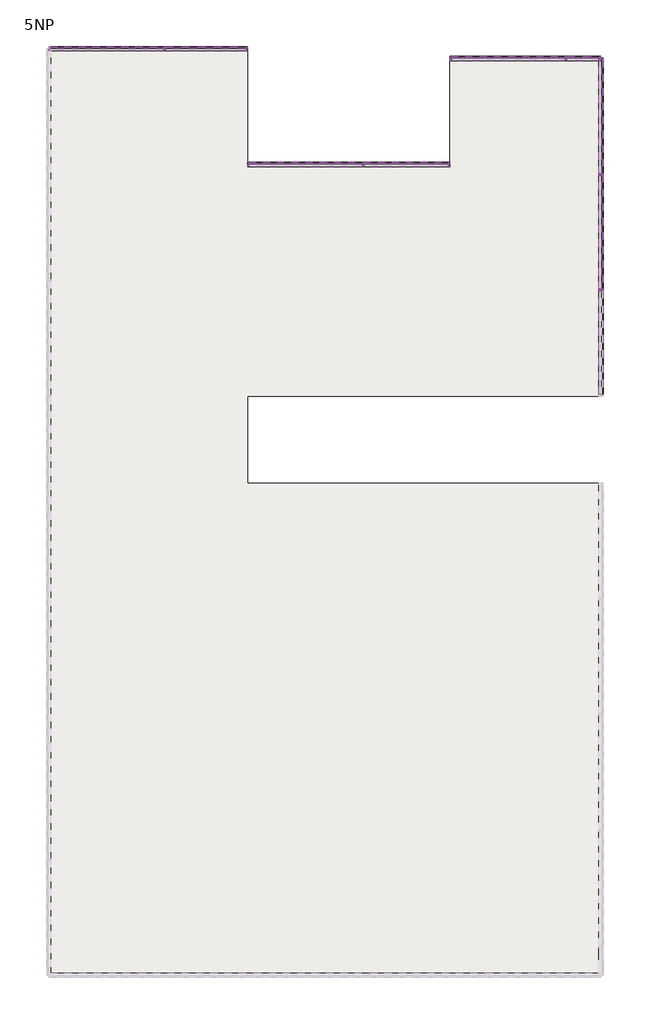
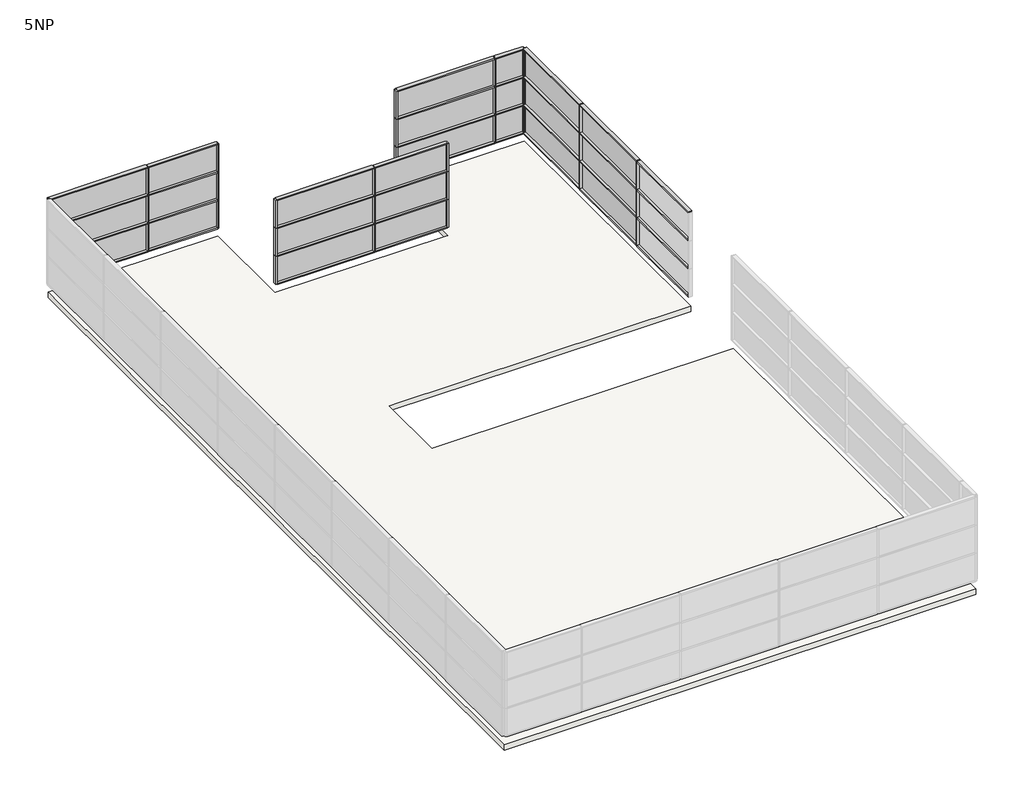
# One storey, part 3 of 3: 71 members, 24 plates, 1 slab.
"""IFC4 building model written with IfcOpenShell, lengths in millimetres."""

import ifcopenshell
import ifcopenshell.guid

model = None  # the IFC model being written
_history = None  # IfcOwnerHistory: only IFC2X3 demands one
_inside = {}  # id of a spatial element -> (the spatial element, [elements in it])
_under = {}  # id of a project, library or spatial element -> (it, [spatial elements below it])
_declared = {}  # id of a project -> (the project, [libraries it declares])
_typed = {}  # id of a type object -> (the type object, [elements of that type])
_made_of = {}  # id of a material, layer set ... -> (it, [elements and type objects made of it])


def new_model(schema):
    """Start an empty IFC model of exactly this schema.

    Asked for "IFC4X3", IfcOpenShell would pick the latest addendum, in which some entities
    have other attributes; the version numbers below select the first issue.
    IFC2X3 requires an IfcOwnerHistory on every rooted entity: one is made here for all.
    """
    global model, _history
    if schema == "IFC4X3":
        model = ifcopenshell.file(schema_version=(4, 3, 0, 0))
    else:
        model = ifcopenshell.file(schema=schema)
    _inside.clear()
    _under.clear()
    _declared.clear()
    _typed.clear()
    _made_of.clear()
    _history = None
    if model.schema == "IFC2X3":
        org = make("IfcOrganization", Name="unknown")
        user = make(
            "IfcPersonAndOrganization",
            ThePerson=make("IfcPerson", FamilyName="unknown"),
            TheOrganization=org,
        )
        app = make(
            "IfcApplication",
            ApplicationDeveloper=org,
            Version="unknown",
            ApplicationFullName="unknown",
            ApplicationIdentifier="unknown",
        )
        _history = make(
            "IfcOwnerHistory",
            OwningUser=user,
            OwningApplication=app,
            ChangeAction="ADDED",
            CreationDate=0,
        )
    return model


def make(cls, **values):
    """One entity of the class cls with the attributes given. An attribute that is None is left unset."""
    return model.create_entity(
        cls, **{name: value for name, value in values.items() if value is not None}
    )


def rooted(cls, **values):
    """An entity with a GlobalId (a new one), such as an element, a storey or a relation."""
    return make(cls, GlobalId=ifcopenshell.guid.new(), OwnerHistory=_history, **values)


def si_unit(unit_type, name, prefix=None):
    """IfcSIUnit, for example si_unit("LENGTHUNIT", "METRE", prefix="MILLI")."""
    return make("IfcSIUnit", UnitType=unit_type, Prefix=prefix, Name=name)


def assignment(units):
    """IfcUnitAssignment: the units of a project."""
    return None if units is None else make("IfcUnitAssignment", Units=units)


def point(xyz):
    """IfcCartesianPoint."""
    return None if xyz is None else make("IfcCartesianPoint", Coordinates=xyz)


def direction(xyz):
    """IfcDirection."""
    return None if xyz is None else make("IfcDirection", DirectionRatios=xyz)


def frame(location, z_axis=None, x_axis=None):
    """IfcAxis2Placement3D, a coordinate frame: its origin and axes. An axis left out is left unset."""
    return make(
        "IfcAxis2Placement3D",
        Location=point(location),
        Axis=direction(z_axis),
        RefDirection=direction(x_axis),
    )


def origin():
    """The frame at (0, 0, 0) with its axes left unset."""
    return frame((0.0, 0.0, 0.0))


def origin_with_axes():
    """The frame at (0, 0, 0) with the z axis (0, 0, 1) and the x axis (1, 0, 0) written out."""
    return frame((0.0, 0.0, 0.0), z_axis=(0.0, 0.0, 1.0), x_axis=(1.0, 0.0, 0.0))


def place(relative_to, where):
    """IfcLocalPlacement: puts the frame where relative to a parent placement (None: the world)."""
    return make(
        "IfcLocalPlacement", PlacementRelTo=relative_to, RelativePlacement=where
    )


def context(
    kind, dimensions, precision=None, world=None, true_north=None, identifier=None
):
    """IfcGeometricRepresentationContext, for example the 3D "Model" context."""
    return make(
        "IfcGeometricRepresentationContext",
        ContextIdentifier=identifier,
        ContextType=kind,
        CoordinateSpaceDimension=dimensions,
        Precision=precision,
        WorldCoordinateSystem=world,
        TrueNorth=true_north,
    )


def project(units=None, contexts=None):
    """IfcProject with its units and contexts."""
    return rooted(
        "IfcProject",
        Name="project",
        RepresentationContexts=contexts,
        UnitsInContext=assignment(units),
    )


def spatial(cls, under=None, at=None, **own):
    """A site, building, storey or space (cls), placed at a placement, below another one or the project."""
    s = rooted(cls, ObjectPlacement=at, **own)
    if under is not None:
        _under.setdefault(under.id(), (under, []))[1].append(s)
    return s


def polyline(points):
    """IfcPolyline through the points."""
    return make("IfcPolyline", Points=[point(p) for p in points])


def outline(outer, holes=None, kind="AREA"):
    """IfcArbitraryClosedProfileDef: a profile drawn as a closed curve; with holes, ...WithVoids."""
    if holes is None:
        return make("IfcArbitraryClosedProfileDef", ProfileType=kind, OuterCurve=outer)
    return make(
        "IfcArbitraryProfileDefWithVoids",
        ProfileType=kind,
        OuterCurve=outer,
        InnerCurves=holes,
    )


def extrude(swept, where, along, depth):
    """IfcExtrudedAreaSolid: the profile swept, set in the frame where, extruded along a direction by depth."""
    return make(
        "IfcExtrudedAreaSolid",
        SweptArea=swept,
        Position=where,
        ExtrudedDirection=direction(along),
        Depth=depth,
    )


def shape(context_of_items, identifier, shape_type, items):
    """IfcShapeRepresentation: the items that make up one representation, for example the "Body"."""
    return make(
        "IfcShapeRepresentation",
        ContextOfItems=context_of_items,
        RepresentationIdentifier=identifier,
        RepresentationType=shape_type,
        Items=items,
    )


def source(mapping_origin, context_of_items, identifier, shape_type, items):
    """IfcRepresentationMap: a shape defined once, which mapped items show again and again."""
    return make(
        "IfcRepresentationMap",
        MappingOrigin=mapping_origin,
        MappedRepresentation=shape(context_of_items, identifier, shape_type, items),
    )


def transform(
    local_origin,
    x_axis=None,
    y_axis=None,
    z_axis=None,
    scale=None,
    scale2=None,
    scale3=None,
    uniform=True,
):
    """IfcCartesianTransformationOperator3D, or its non-uniform kind. x_axis, y_axis, z_axis: its Axis1, 2, 3."""
    if uniform:
        return make(
            "IfcCartesianTransformationOperator3D",
            Axis1=direction(x_axis),
            Axis2=direction(y_axis),
            LocalOrigin=point(local_origin),
            Scale=scale,
            Axis3=direction(z_axis),
        )
    return make(
        "IfcCartesianTransformationOperator3DnonUniform",
        Axis1=direction(x_axis),
        Axis2=direction(y_axis),
        LocalOrigin=point(local_origin),
        Scale=scale,
        Axis3=direction(z_axis),
        Scale2=scale2,
        Scale3=scale3,
    )


def mapped(mapping_source, mapping_target):
    """IfcMappedItem: shows the shape of a source again, moved by a transform."""
    return make(
        "IfcMappedItem", MappingSource=mapping_source, MappingTarget=mapping_target
    )


def made_of(thing, what):
    """Note that an element or type object is made of a material, layer set ...; save() writes the relation."""
    if what is not None:
        _made_of.setdefault(what.id(), (what, []))[1].append(thing)
    return thing


def element(
    cls,
    number,
    at=None,
    inside=None,
    cuts=None,
    type_object=None,
    material=None,
    context=None,
    identifier="Body",
    shape_type=None,
    held_by="IfcProductDefinitionShape",
    body=None,
    shapes=None,
    **own,
):
    """One element of the class cls, such as IfcWall. Its Tag is "e" and its number.

    at: its placement. inside: the storey or other place that contains it. cuts: it is an
    opening in that element (IfcRelVoidsElement). A single representation is given by context,
    identifier, shape_type and body (its items); several are given by shapes. held_by: the class
    of the entity that holds the representations. save() writes the other relations.
    """
    e = rooted(cls, Tag="e%d" % number, ObjectPlacement=at, **own)
    if body is not None:
        shapes = [shape(context, identifier, shape_type, body)]
    if shapes is not None:
        e.Representation = make(held_by, Representations=shapes)
    if inside is not None:
        _inside.setdefault(inside.id(), (inside, []))[1].append(e)
    if cuts is not None:
        rooted(
            "IfcRelVoidsElement", RelatingBuildingElement=cuts, RelatedOpeningElement=e
        )
    if type_object is not None:
        _typed.setdefault(type_object.id(), (type_object, []))[1].append(e)
    return made_of(e, material)


def aggregate(whole, parts):
    """IfcRelAggregates: a whole, such as a stair, and the parts it consists of."""
    return rooted("IfcRelAggregates", RelatingObject=whole, RelatedObjects=parts)


def save(model, path):
    """Write the relations noted so far, then the file.

    IfcRelAggregates (storeys below a building ...), IfcRelContainedInSpatialStructure (elements
    in a storey), IfcRelDefinesByType, IfcRelAssociatesMaterial and IfcRelDeclares: one each for
    every whole, place, type object, material and project.
    """
    for whole, parts in _under.values():
        aggregate(whole, parts)
    for where, things in _inside.values():
        rooted(
            "IfcRelContainedInSpatialStructure",
            RelatedElements=things,
            RelatingStructure=where,
        )
    for kind, things in _typed.values():
        rooted("IfcRelDefinesByType", RelatedObjects=things, RelatingType=kind)
    for what, things in _made_of.values():
        rooted("IfcRelAssociatesMaterial", RelatedObjects=things, RelatingMaterial=what)
    for by, libraries in _declared.values():
        rooted("IfcRelDeclares", RelatingContext=by, RelatedDefinitions=libraries)
    model.write(path)


def rectangular_mullion_50_x_150mm_d99dc9be(model_context):
    return source(origin(), model_context, "Body", "SweptSolid", [
        extrude(outline(polyline([(25.0, 75.0), (25.0, -75.0), (-25.0, -75.0), (-25.0, 75.0), (25.0, 75.0)])), frame((0.0, 0.0, -1200.0), z_axis=(0.0, 0.0, 1.0), x_axis=(1.0, 0.0, 0.0)), (0.0, 0.0, 1.0), 1200.0),
    ])


def rectangular_mullion_50_x_150mm_6588f46c(model_context):
    return source(origin(), model_context, "Body", "SweptSolid", [
        extrude(outline(polyline([(0.0, 75.0), (0.0, -75.0), (-50.0, -75.0), (-50.0, 75.0), (0.0, 75.0)])), frame((0.0, 0.0, -1200.0), z_axis=(0.0, 0.0, 1.0), x_axis=(1.0, 0.0, 0.0)), (0.0, 0.0, 1.0), 1200.0),
    ])


def rectangular_mullion_50_x_150mm_3fe1b35e(model_context):
    return source(origin(), model_context, "Body", "SweptSolid", [
        extrude(outline(polyline([(25.0, 75.0), (25.0, -75.0), (-25.0, -75.0), (-25.0, 75.0), (25.0, 75.0)])), frame((0.0, 0.0, -3588.3715849), z_axis=(0.0, 0.0, 1.0), x_axis=(1.0, 0.0, 0.0)), (0.0, 0.0, 1.0), 3588.3715849),
    ])


def rectangular_mullion_50_x_150mm_a037c29c(model_context):
    return source(origin(), model_context, "Body", "SweptSolid", [
        extrude(outline(polyline([(25.0, 75.0), (25.0, -75.0), (-25.0, -75.0), (-25.0, 75.0), (25.0, 75.0)])), frame((0.0, 0.0, -3950.0), z_axis=(0.0, 0.0, 1.0), x_axis=(1.0, 0.0, 0.0)), (0.0, 0.0, 1.0), 3950.0),
    ])


def rectangular_mullion_50_x_150mm_c2546fd4(model_context):
    return source(origin(), model_context, "Body", "SweptSolid", [
        extrude(outline(polyline([(25.0, 75.0), (25.0, -75.0), (-25.0, -75.0), (-25.0, 75.0), (25.0, 75.0)])), frame((0.0, 0.0, -3925.0), z_axis=(0.0, 0.0, 1.0), x_axis=(1.0, 0.0, 0.0)), (0.0, 0.0, 1.0), 3925.0),
    ])


def rectangular_mullion_50_x_150mm_8b4cb4b7(model_context):
    return source(origin(), model_context, "Body", "SweptSolid", [
        extrude(outline(polyline([(25.0, 75.0), (25.0, -75.0), (-25.0, -75.0), (-25.0, 75.0), (25.0, 75.0)])), frame((0.0, 0.0, -2790.592625), z_axis=(0.0, 0.0, 1.0), x_axis=(1.0, 0.0, 0.0)), (0.0, 0.0, 1.0), 2790.592625),
    ])


def rectangular_mullion_50_x_150mm_185cfd49(model_context):
    return source(origin(), model_context, "Body", "SweptSolid", [
        extrude(outline(polyline([(25.0, 75.0), (25.0, -75.0), (-25.0, -75.0), (-25.0, 75.0), (25.0, 75.0)])), frame((0.0, 0.0, -2925.0), z_axis=(0.0, 0.0, 1.0), x_axis=(1.0, 0.0, 0.0)), (0.0, 0.0, 1.0), 2925.0),
    ])


def rectangular_mullion_50_x_150mm_2fe63767(model_context):
    return source(origin(), model_context, "Body", "SweptSolid", [
        extrude(outline(polyline([(25.0, 75.0), (25.0, -75.0), (-25.0, -75.0), (-25.0, 75.0), (25.0, 75.0)])), frame((0.0, 0.0, -1149.8468786), z_axis=(0.0, 0.0, 1.0), x_axis=(1.0, 0.0, 0.0)), (0.0, 0.0, 1.0), 1149.8468786),
    ])


def system_panel_glazed_8e9402eb(model_context):
    return source(origin(), model_context, "Body", "SweptSolid", [
        extrude(outline(polyline([(1962.5, 24.5), (-1962.5, 24.5), (-1962.5, 49.5), (1962.5, 49.5), (1962.5, 24.5)])), origin_with_axes(), (0.0, 0.0, 1.0), 1150.0),
    ])


def system_panel_glazed_89ac83a7(model_context):
    return source(origin(), model_context, "Body", "SweptSolid", [
        extrude(outline(polyline([(1975.0, 24.5), (-1975.0, 24.5), (-1975.0, 49.5), (1975.0, 49.5), (1975.0, 24.5)])), origin_with_axes(), (0.0, 0.0, 1.0), 1150.0),
    ])


def system_panel_glazed_e890f31e(model_context):
    return source(origin(), model_context, "Body", "SweptSolid", [
        extrude(outline(polyline([(1395.2963125, 24.5), (-1395.2963125, 24.5), (-1395.2963125, 49.5), (1395.2963125, 49.5), (1395.2963125, 24.5)])), origin_with_axes(), (0.0, 0.0, 1.0), 1150.0),
    ])


def system_panel_glazed_e3e91f99(model_context):
    return source(origin(), model_context, "Body", "SweptSolid", [
        extrude(outline(polyline([(1462.5, 24.5), (-1462.5, 24.5), (-1462.5, 49.5), (1462.5, 49.5), (1462.5, 24.5)])), origin_with_axes(), (0.0, 0.0, 1.0), 1150.0),
    ])


def system_panel_glazed_39d17f19(model_context):
    return source(origin(), model_context, "Body", "SweptSolid", [
        extrude(outline(polyline([(574.9234393, 24.5), (-574.9234393, 24.5), (-574.9234393, 49.5), (574.9234393, 49.5), (574.9234393, 24.5)])), origin_with_axes(), (0.0, 0.0, 1.0), 1150.0),
    ])


model = new_model("IFC4")

# Units and contexts
model_context = context("Model", 3, world=origin())
ifc_project = project(units=[si_unit("LENGTHUNIT", "METRE", prefix="MILLI")], contexts=[model_context])

# Site, building, storey
site = spatial("IfcSite", under=ifc_project)
building = spatial("IfcBuilding", under=site)
storey = spatial("IfcBuildingStorey", under=building, Name="5NP", Elevation=20000.0)

# Members
placement = place(None, origin())
rectangular_mullion_50_x_150mm_shape = rectangular_mullion_50_x_150mm_d99dc9be(model_context)
element("IfcMember", 1, ObjectType="Rectangular Mullion : 50 x 150mm", at=placement, inside=storey, context=model_context, shape_type="MappedRepresentation", body=[
    mapped(rectangular_mullion_50_x_150mm_shape, transform((13503.2660975, 39.3555415, 24000.0), x_axis=(0.0, -1.0, 0.0), y_axis=(1.0, 0.0, 0.0), z_axis=(0.0, 0.0, 1.0))),
])
element("IfcMember", 2, ObjectType="Rectangular Mullion : 50 x 150mm", at=placement, inside=storey, context=model_context, shape_type="MappedRepresentation", body=[
    mapped(rectangular_mullion_50_x_150mm_shape, transform((13503.2660975, 39.3555415, 22800.0), x_axis=(0.0, -1.0, 0.0), y_axis=(1.0, 0.0, 0.0), z_axis=(0.0, 0.0, 1.0))),
])
element("IfcMember", 3, ObjectType="Rectangular Mullion : 50 x 150mm", at=placement, inside=storey, context=model_context, shape_type="MappedRepresentation", body=[
    mapped(rectangular_mullion_50_x_150mm_shape, transform((13503.2660975, 39.3555415, 21600.0), x_axis=(0.0, -1.0, 0.0), y_axis=(1.0, 0.0, 0.0), z_axis=(0.0, 0.0, 1.0))),
])
element("IfcMember", 4, ObjectType="Rectangular Mullion : 50 x 150mm", at=placement, inside=storey, context=model_context, shape_type="MappedRepresentation", body=[
    mapped(rectangular_mullion_50_x_150mm_shape, transform((13503.2660975, 4039.3555415, 24000.0), x_axis=(0.0, -1.0, 0.0), y_axis=(1.0, 0.0, 0.0), z_axis=(0.0, 0.0, 1.0))),
])
element("IfcMember", 5, ObjectType="Rectangular Mullion : 50 x 150mm", at=placement, inside=storey, context=model_context, shape_type="MappedRepresentation", body=[
    mapped(rectangular_mullion_50_x_150mm_shape, transform((13503.2660975, 4039.3555415, 22800.0), x_axis=(0.0, -1.0, 0.0), y_axis=(1.0, 0.0, 0.0), z_axis=(0.0, 0.0, 1.0))),
])
element("IfcMember", 6, ObjectType="Rectangular Mullion : 50 x 150mm", at=placement, inside=storey, context=model_context, shape_type="MappedRepresentation", body=[
    mapped(rectangular_mullion_50_x_150mm_shape, transform((13503.2660975, 4039.3555415, 21600.0), x_axis=(0.0, -1.0, 0.0), y_axis=(1.0, 0.0, 0.0), z_axis=(0.0, 0.0, 1.0))),
])
element("IfcMember", 7, ObjectType="Rectangular Mullion : 50 x 150mm", at=placement, inside=storey, context=model_context, shape_type="MappedRepresentation", body=[
    mapped(rectangular_mullion_50_x_150mm_shape, transform((-1587.173406, 8375.9839566, 21600.0), x_axis=(1.0, 0.0, 0.0), y_axis=(0.0, 1.0, 0.0), z_axis=(0.0, 0.0, 1.0))),
])
element("IfcMember", 8, ObjectType="Rectangular Mullion : 50 x 150mm", at=placement, inside=storey, context=model_context, shape_type="MappedRepresentation", body=[
    mapped(rectangular_mullion_50_x_150mm_shape, transform((-1587.173406, 8375.9839566, 22800.0), x_axis=(1.0, 0.0, 0.0), y_axis=(0.0, 1.0, 0.0), z_axis=(0.0, 0.0, 1.0))),
])
element("IfcMember", 9, ObjectType="Rectangular Mullion : 50 x 150mm", at=placement, inside=storey, context=model_context, shape_type="MappedRepresentation", body=[
    mapped(rectangular_mullion_50_x_150mm_shape, transform((-1587.173406, 8375.9839566, 24000.0), x_axis=(1.0, 0.0, 0.0), y_axis=(0.0, 1.0, 0.0), z_axis=(0.0, 0.0, 1.0))),
])
element("IfcMember", 10, ObjectType="Rectangular Mullion : 50 x 150mm", at=placement, inside=storey, context=model_context, shape_type="MappedRepresentation", body=[
    mapped(rectangular_mullion_50_x_150mm_shape, transform((5278.419219, 4375.9839566, 21600.0), x_axis=(1.0, 0.0, 0.0), y_axis=(0.0, 1.0, 0.0), z_axis=(0.0, 0.0, 1.0))),
])
element("IfcMember", 11, ObjectType="Rectangular Mullion : 50 x 150mm", at=placement, inside=storey, context=model_context, shape_type="MappedRepresentation", body=[
    mapped(rectangular_mullion_50_x_150mm_shape, transform((5278.419219, 4375.9839566, 22800.0), x_axis=(1.0, 0.0, 0.0), y_axis=(0.0, 1.0, 0.0), z_axis=(0.0, 0.0, 1.0))),
])
element("IfcMember", 12, ObjectType="Rectangular Mullion : 50 x 150mm", at=placement, inside=storey, context=model_context, shape_type="MappedRepresentation", body=[
    mapped(rectangular_mullion_50_x_150mm_shape, transform((5278.419219, 4375.9839566, 24000.0), x_axis=(1.0, 0.0, 0.0), y_axis=(0.0, 1.0, 0.0), z_axis=(0.0, 0.0, 1.0))),
])
element("IfcMember", 13, ObjectType="Rectangular Mullion : 50 x 150mm", at=placement, inside=storey, context=model_context, shape_type="MappedRepresentation", body=[
    mapped(rectangular_mullion_50_x_150mm_shape, transform((12278.419219, 8039.3555415, 21600.0), x_axis=(1.0, 0.0, 0.0), y_axis=(0.0, 1.0, 0.0), z_axis=(0.0, 0.0, 1.0))),
])
element("IfcMember", 14, ObjectType="Rectangular Mullion : 50 x 150mm", at=placement, inside=storey, context=model_context, shape_type="MappedRepresentation", body=[
    mapped(rectangular_mullion_50_x_150mm_shape, transform((12278.419219, 8039.3555415, 22800.0), x_axis=(1.0, 0.0, 0.0), y_axis=(0.0, 1.0, 0.0), z_axis=(0.0, 0.0, 1.0))),
])
element("IfcMember", 15, ObjectType="Rectangular Mullion : 50 x 150mm", at=placement, inside=storey, context=model_context, shape_type="MappedRepresentation", body=[
    mapped(rectangular_mullion_50_x_150mm_shape, transform((12278.419219, 8039.3555415, 24000.0), x_axis=(1.0, 0.0, 0.0), y_axis=(0.0, 1.0, 0.0), z_axis=(0.0, 0.0, 1.0))),
])
rectangular_mullion_50_x_150mm_2_shape = rectangular_mullion_50_x_150mm_6588f46c(model_context)
element("IfcMember", 16, ObjectType="Rectangular Mullion : 50 x 150mm", at=placement, inside=storey, context=model_context, shape_type="MappedRepresentation", body=[
    mapped(rectangular_mullion_50_x_150mm_2_shape, transform((1278.419219, 8375.9839566, 21600.0), x_axis=(1.0, 0.0, 0.0), y_axis=(0.0, 1.0, 0.0), z_axis=(0.0, 0.0, 1.0))),
])
element("IfcMember", 17, ObjectType="Rectangular Mullion : 50 x 150mm", at=placement, inside=storey, context=model_context, shape_type="MappedRepresentation", body=[
    mapped(rectangular_mullion_50_x_150mm_2_shape, transform((1278.419219, 8375.9839566, 22800.0), x_axis=(1.0, 0.0, 0.0), y_axis=(0.0, 1.0, 0.0), z_axis=(0.0, 0.0, 1.0))),
])
element("IfcMember", 18, ObjectType="Rectangular Mullion : 50 x 150mm", at=placement, inside=storey, context=model_context, shape_type="MappedRepresentation", body=[
    mapped(rectangular_mullion_50_x_150mm_2_shape, transform((1278.419219, 8375.9839566, 24000.0), x_axis=(1.0, 0.0, 0.0), y_axis=(0.0, 1.0, 0.0), z_axis=(0.0, 0.0, 1.0))),
])
element("IfcMember", 19, ObjectType="Rectangular Mullion : 50 x 150mm", at=placement, inside=storey, context=model_context, shape_type="MappedRepresentation", body=[
    mapped(rectangular_mullion_50_x_150mm_2_shape, transform((8278.419219, 4375.9839566, 21600.0), x_axis=(1.0, 0.0, 0.0), y_axis=(0.0, 1.0, 0.0), z_axis=(0.0, 0.0, 1.0))),
])
element("IfcMember", 20, ObjectType="Rectangular Mullion : 50 x 150mm", at=placement, inside=storey, context=model_context, shape_type="MappedRepresentation", body=[
    mapped(rectangular_mullion_50_x_150mm_2_shape, transform((8278.419219, 4375.9839566, 22800.0), x_axis=(1.0, 0.0, 0.0), y_axis=(0.0, 1.0, 0.0), z_axis=(0.0, 0.0, 1.0))),
])
element("IfcMember", 21, ObjectType="Rectangular Mullion : 50 x 150mm", at=placement, inside=storey, context=model_context, shape_type="MappedRepresentation", body=[
    mapped(rectangular_mullion_50_x_150mm_2_shape, transform((8278.419219, 4375.9839566, 24000.0), x_axis=(1.0, 0.0, 0.0), y_axis=(0.0, 1.0, 0.0), z_axis=(0.0, 0.0, 1.0))),
])
element("IfcMember", 22, ObjectType="Rectangular Mullion : 50 x 150mm", at=placement, inside=storey, context=model_context, shape_type="MappedRepresentation", body=[
    mapped(rectangular_mullion_50_x_150mm_2_shape, transform((13503.2660975, 8039.3555415, 21600.0), x_axis=(1.0, 0.0, 0.0), y_axis=(0.0, 1.0, 0.0), z_axis=(0.0, 0.0, 1.0))),
])
element("IfcMember", 23, ObjectType="Rectangular Mullion : 50 x 150mm", at=placement, inside=storey, context=model_context, shape_type="MappedRepresentation", body=[
    mapped(rectangular_mullion_50_x_150mm_2_shape, transform((13503.2660975, 8039.3555415, 22800.0), x_axis=(1.0, 0.0, 0.0), y_axis=(0.0, 1.0, 0.0), z_axis=(0.0, 0.0, 1.0))),
])
element("IfcMember", 24, ObjectType="Rectangular Mullion : 50 x 150mm", at=placement, inside=storey, context=model_context, shape_type="MappedRepresentation", body=[
    mapped(rectangular_mullion_50_x_150mm_2_shape, transform((13503.2660975, 8039.3555415, 24000.0), x_axis=(1.0, 0.0, 0.0), y_axis=(0.0, 1.0, 0.0), z_axis=(0.0, 0.0, 1.0))),
])
rectangular_mullion_50_x_150mm_3_shape = rectangular_mullion_50_x_150mm_3fe1b35e(model_context)
element("IfcMember", 25, ObjectType="Rectangular Mullion : 50 x 150mm", at=placement, inside=storey, context=model_context, shape_type="MappedRepresentation", body=[
    mapped(rectangular_mullion_50_x_150mm_3_shape, transform((13503.2660975, 14.3555415, 24000.0), x_axis=(0.0, 0.0, 1.0), y_axis=(1.0, 0.0, 0.0), z_axis=(0.0, 1.0, 0.0))),
])
element("IfcMember", 26, ObjectType="Rectangular Mullion : 50 x 150mm", at=placement, inside=storey, context=model_context, shape_type="MappedRepresentation", body=[
    mapped(rectangular_mullion_50_x_150mm_3_shape, transform((13503.2660975, 14.3555415, 22800.0), x_axis=(0.0, 0.0, 1.0), y_axis=(1.0, 0.0, 0.0), z_axis=(0.0, 1.0, 0.0))),
])
element("IfcMember", 27, ObjectType="Rectangular Mullion : 50 x 150mm", at=placement, inside=storey, context=model_context, shape_type="MappedRepresentation", body=[
    mapped(rectangular_mullion_50_x_150mm_3_shape, transform((13503.2660975, 14.3555415, 21600.0), x_axis=(0.0, 0.0, 1.0), y_axis=(1.0, 0.0, 0.0), z_axis=(0.0, 1.0, 0.0))),
])
element("IfcMember", 28, ObjectType="Rectangular Mullion : 50 x 150mm", at=placement, inside=storey, context=model_context, shape_type="MappedRepresentation", body=[
    mapped(rectangular_mullion_50_x_150mm_3_shape, transform((13503.2660975, 14.3555415, 20400.0), x_axis=(0.0, 0.0, 1.0), y_axis=(1.0, 0.0, 0.0), z_axis=(0.0, 1.0, 0.0))),
])
rectangular_mullion_50_x_150mm_4_shape = rectangular_mullion_50_x_150mm_a037c29c(model_context)
element("IfcMember", 29, ObjectType="Rectangular Mullion : 50 x 150mm", at=placement, inside=storey, context=model_context, shape_type="MappedRepresentation", body=[
    mapped(rectangular_mullion_50_x_150mm_4_shape, transform((13503.2660975, 4014.3555415, 24000.0), x_axis=(0.0, 0.0, 1.0), y_axis=(1.0, 0.0, 0.0), z_axis=(0.0, 1.0, 0.0))),
])
element("IfcMember", 30, ObjectType="Rectangular Mullion : 50 x 150mm", at=placement, inside=storey, context=model_context, shape_type="MappedRepresentation", body=[
    mapped(rectangular_mullion_50_x_150mm_4_shape, transform((13503.2660975, 4014.3555415, 22800.0), x_axis=(0.0, 0.0, 1.0), y_axis=(1.0, 0.0, 0.0), z_axis=(0.0, 1.0, 0.0))),
])
element("IfcMember", 31, ObjectType="Rectangular Mullion : 50 x 150mm", at=placement, inside=storey, context=model_context, shape_type="MappedRepresentation", body=[
    mapped(rectangular_mullion_50_x_150mm_4_shape, transform((13503.2660975, 4014.3555415, 21600.0), x_axis=(0.0, 0.0, 1.0), y_axis=(1.0, 0.0, 0.0), z_axis=(0.0, 1.0, 0.0))),
])
element("IfcMember", 32, ObjectType="Rectangular Mullion : 50 x 150mm", at=placement, inside=storey, context=model_context, shape_type="MappedRepresentation", body=[
    mapped(rectangular_mullion_50_x_150mm_4_shape, transform((13503.2660975, 4014.3555415, 20400.0), x_axis=(0.0, 0.0, 1.0), y_axis=(1.0, 0.0, 0.0), z_axis=(0.0, 1.0, 0.0))),
])
rectangular_mullion_50_x_150mm_5_shape = rectangular_mullion_50_x_150mm_c2546fd4(model_context)
element("IfcMember", 33, ObjectType="Rectangular Mullion : 50 x 150mm", at=placement, inside=storey, context=model_context, shape_type="MappedRepresentation", body=[
    mapped(rectangular_mullion_50_x_150mm_5_shape, transform((13503.2660975, 7989.3555415, 24000.0), x_axis=(0.0, 0.0, 1.0), y_axis=(1.0, 0.0, 0.0), z_axis=(0.0, 1.0, 0.0))),
])
element("IfcMember", 34, ObjectType="Rectangular Mullion : 50 x 150mm", at=placement, inside=storey, context=model_context, shape_type="MappedRepresentation", body=[
    mapped(rectangular_mullion_50_x_150mm_5_shape, transform((13503.2660975, 7989.3555415, 22800.0), x_axis=(0.0, 0.0, 1.0), y_axis=(1.0, 0.0, 0.0), z_axis=(0.0, 1.0, 0.0))),
])
element("IfcMember", 35, ObjectType="Rectangular Mullion : 50 x 150mm", at=placement, inside=storey, context=model_context, shape_type="MappedRepresentation", body=[
    mapped(rectangular_mullion_50_x_150mm_5_shape, transform((13503.2660975, 7989.3555415, 21600.0), x_axis=(0.0, 0.0, 1.0), y_axis=(1.0, 0.0, 0.0), z_axis=(0.0, 1.0, 0.0))),
])
element("IfcMember", 36, ObjectType="Rectangular Mullion : 50 x 150mm", at=placement, inside=storey, context=model_context, shape_type="MappedRepresentation", body=[
    mapped(rectangular_mullion_50_x_150mm_5_shape, transform((13503.2660975, 7989.3555415, 20400.0), x_axis=(0.0, 0.0, 1.0), y_axis=(1.0, 0.0, 0.0), z_axis=(0.0, 1.0, 0.0))),
])
element("IfcMember", 37, ObjectType="Rectangular Mullion : 50 x 150mm", at=placement, inside=storey, context=model_context, shape_type="MappedRepresentation", body=[
    mapped(rectangular_mullion_50_x_150mm_5_shape, transform((-5537.173406, 8375.9839566, 20400.0), x_axis=(0.0, 0.0, 1.0), y_axis=(0.0, 1.0, 0.0), z_axis=(-1.0, 0.0, 0.0))),
])
element("IfcMember", 38, ObjectType="Rectangular Mullion : 50 x 150mm", at=placement, inside=storey, context=model_context, shape_type="MappedRepresentation", body=[
    mapped(rectangular_mullion_50_x_150mm_5_shape, transform((-5537.173406, 8375.9839566, 21600.0), x_axis=(0.0, 0.0, 1.0), y_axis=(0.0, 1.0, 0.0), z_axis=(-1.0, 0.0, 0.0))),
])
element("IfcMember", 39, ObjectType="Rectangular Mullion : 50 x 150mm", at=placement, inside=storey, context=model_context, shape_type="MappedRepresentation", body=[
    mapped(rectangular_mullion_50_x_150mm_5_shape, transform((-5537.173406, 8375.9839566, 22800.0), x_axis=(0.0, 0.0, 1.0), y_axis=(0.0, 1.0, 0.0), z_axis=(-1.0, 0.0, 0.0))),
])
element("IfcMember", 40, ObjectType="Rectangular Mullion : 50 x 150mm", at=placement, inside=storey, context=model_context, shape_type="MappedRepresentation", body=[
    mapped(rectangular_mullion_50_x_150mm_5_shape, transform((-5537.173406, 8375.9839566, 24000.0), x_axis=(0.0, 0.0, 1.0), y_axis=(0.0, 1.0, 0.0), z_axis=(-1.0, 0.0, 0.0))),
])
element("IfcMember", 41, ObjectType="Rectangular Mullion : 50 x 150mm", at=placement, inside=storey, context=model_context, shape_type="MappedRepresentation", body=[
    mapped(rectangular_mullion_50_x_150mm_5_shape, transform((1328.419219, 4375.9839566, 24000.0), x_axis=(0.0, 0.0, 1.0), y_axis=(0.0, 1.0, 0.0), z_axis=(-1.0, 0.0, 0.0))),
])
element("IfcMember", 42, ObjectType="Rectangular Mullion : 50 x 150mm", at=placement, inside=storey, context=model_context, shape_type="MappedRepresentation", body=[
    mapped(rectangular_mullion_50_x_150mm_5_shape, transform((1328.419219, 4375.9839566, 20400.0), x_axis=(0.0, 0.0, 1.0), y_axis=(0.0, 1.0, 0.0), z_axis=(-1.0, 0.0, 0.0))),
])
element("IfcMember", 43, ObjectType="Rectangular Mullion : 50 x 150mm", at=placement, inside=storey, context=model_context, shape_type="MappedRepresentation", body=[
    mapped(rectangular_mullion_50_x_150mm_5_shape, transform((1328.419219, 4375.9839566, 21600.0), x_axis=(0.0, 0.0, 1.0), y_axis=(0.0, 1.0, 0.0), z_axis=(-1.0, 0.0, 0.0))),
])
element("IfcMember", 44, ObjectType="Rectangular Mullion : 50 x 150mm", at=placement, inside=storey, context=model_context, shape_type="MappedRepresentation", body=[
    mapped(rectangular_mullion_50_x_150mm_5_shape, transform((1328.419219, 4375.9839566, 22800.0), x_axis=(0.0, 0.0, 1.0), y_axis=(0.0, 1.0, 0.0), z_axis=(-1.0, 0.0, 0.0))),
])
element("IfcMember", 45, ObjectType="Rectangular Mullion : 50 x 150mm", at=placement, inside=storey, context=model_context, shape_type="MappedRepresentation", body=[
    mapped(rectangular_mullion_50_x_150mm_5_shape, transform((8328.419219, 8039.3555415, 24000.0), x_axis=(0.0, 0.0, 1.0), y_axis=(0.0, 1.0, 0.0), z_axis=(-1.0, 0.0, 0.0))),
])
element("IfcMember", 46, ObjectType="Rectangular Mullion : 50 x 150mm", at=placement, inside=storey, context=model_context, shape_type="MappedRepresentation", body=[
    mapped(rectangular_mullion_50_x_150mm_5_shape, transform((8328.419219, 8039.3555415, 20400.0), x_axis=(0.0, 0.0, 1.0), y_axis=(0.0, 1.0, 0.0), z_axis=(-1.0, 0.0, 0.0))),
])
element("IfcMember", 47, ObjectType="Rectangular Mullion : 50 x 150mm", at=placement, inside=storey, context=model_context, shape_type="MappedRepresentation", body=[
    mapped(rectangular_mullion_50_x_150mm_5_shape, transform((8328.419219, 8039.3555415, 21600.0), x_axis=(0.0, 0.0, 1.0), y_axis=(0.0, 1.0, 0.0), z_axis=(-1.0, 0.0, 0.0))),
])
element("IfcMember", 48, ObjectType="Rectangular Mullion : 50 x 150mm", at=placement, inside=storey, context=model_context, shape_type="MappedRepresentation", body=[
    mapped(rectangular_mullion_50_x_150mm_5_shape, transform((8328.419219, 8039.3555415, 22800.0), x_axis=(0.0, 0.0, 1.0), y_axis=(0.0, 1.0, 0.0), z_axis=(-1.0, 0.0, 0.0))),
])
element("IfcMember", 49, ObjectType="Rectangular Mullion : 50 x 150mm", at=placement, inside=storey, context=model_context, shape_type="MappedRepresentation", body=[
    mapped(rectangular_mullion_50_x_150mm_2_shape, transform((13503.2660975, 8039.3555415, 22800.0), x_axis=(0.0, 1.0, 0.0), y_axis=(1.0, 0.0, 0.0), z_axis=(0.0, 0.0, -1.0))),
])
element("IfcMember", 50, ObjectType="Rectangular Mullion : 50 x 150mm", at=placement, inside=storey, context=model_context, shape_type="MappedRepresentation", body=[
    mapped(rectangular_mullion_50_x_150mm_2_shape, transform((13503.2660975, 8039.3555415, 21600.0), x_axis=(0.0, 1.0, 0.0), y_axis=(1.0, 0.0, 0.0), z_axis=(0.0, 0.0, -1.0))),
])
element("IfcMember", 51, ObjectType="Rectangular Mullion : 50 x 150mm", at=placement, inside=storey, context=model_context, shape_type="MappedRepresentation", body=[
    mapped(rectangular_mullion_50_x_150mm_2_shape, transform((13503.2660975, 8039.3555415, 20400.0), x_axis=(0.0, 1.0, 0.0), y_axis=(1.0, 0.0, 0.0), z_axis=(0.0, 0.0, -1.0))),
])
element("IfcMember", 52, ObjectType="Rectangular Mullion : 50 x 150mm", at=placement, inside=storey, context=model_context, shape_type="MappedRepresentation", body=[
    mapped(rectangular_mullion_50_x_150mm_2_shape, transform((-5587.173406, 8375.9839566, 21600.0), x_axis=(-1.0, 0.0, 0.0), y_axis=(0.0, 1.0, 0.0), z_axis=(0.0, 0.0, -1.0))),
])
element("IfcMember", 53, ObjectType="Rectangular Mullion : 50 x 150mm", at=placement, inside=storey, context=model_context, shape_type="MappedRepresentation", body=[
    mapped(rectangular_mullion_50_x_150mm_2_shape, transform((-5587.173406, 8375.9839566, 22800.0), x_axis=(-1.0, 0.0, 0.0), y_axis=(0.0, 1.0, 0.0), z_axis=(0.0, 0.0, -1.0))),
])
element("IfcMember", 54, ObjectType="Rectangular Mullion : 50 x 150mm", at=placement, inside=storey, context=model_context, shape_type="MappedRepresentation", body=[
    mapped(rectangular_mullion_50_x_150mm_2_shape, transform((1278.419219, 4375.9839566, 20400.0), x_axis=(-1.0, 0.0, 0.0), y_axis=(0.0, 1.0, 0.0), z_axis=(0.0, 0.0, -1.0))),
])
element("IfcMember", 55, ObjectType="Rectangular Mullion : 50 x 150mm", at=placement, inside=storey, context=model_context, shape_type="MappedRepresentation", body=[
    mapped(rectangular_mullion_50_x_150mm_2_shape, transform((1278.419219, 4375.9839566, 21600.0), x_axis=(-1.0, 0.0, 0.0), y_axis=(0.0, 1.0, 0.0), z_axis=(0.0, 0.0, -1.0))),
])
element("IfcMember", 56, ObjectType="Rectangular Mullion : 50 x 150mm", at=placement, inside=storey, context=model_context, shape_type="MappedRepresentation", body=[
    mapped(rectangular_mullion_50_x_150mm_2_shape, transform((1278.419219, 4375.9839566, 22800.0), x_axis=(-1.0, 0.0, 0.0), y_axis=(0.0, 1.0, 0.0), z_axis=(0.0, 0.0, -1.0))),
])
element("IfcMember", 57, ObjectType="Rectangular Mullion : 50 x 150mm", at=placement, inside=storey, context=model_context, shape_type="MappedRepresentation", body=[
    mapped(rectangular_mullion_50_x_150mm_2_shape, transform((8278.419219, 8039.3555415, 20400.0), x_axis=(-1.0, 0.0, 0.0), y_axis=(0.0, 1.0, 0.0), z_axis=(0.0, 0.0, -1.0))),
])
element("IfcMember", 58, ObjectType="Rectangular Mullion : 50 x 150mm", at=placement, inside=storey, context=model_context, shape_type="MappedRepresentation", body=[
    mapped(rectangular_mullion_50_x_150mm_2_shape, transform((8278.419219, 8039.3555415, 21600.0), x_axis=(-1.0, 0.0, 0.0), y_axis=(0.0, 1.0, 0.0), z_axis=(0.0, 0.0, -1.0))),
])
element("IfcMember", 59, ObjectType="Rectangular Mullion : 50 x 150mm", at=placement, inside=storey, context=model_context, shape_type="MappedRepresentation", body=[
    mapped(rectangular_mullion_50_x_150mm_2_shape, transform((8278.419219, 8039.3555415, 22800.0), x_axis=(-1.0, 0.0, 0.0), y_axis=(0.0, 1.0, 0.0), z_axis=(0.0, 0.0, -1.0))),
])
rectangular_mullion_50_x_150mm_6_shape = rectangular_mullion_50_x_150mm_8b4cb4b7(model_context)
element("IfcMember", 60, ObjectType="Rectangular Mullion : 50 x 150mm", at=placement, inside=storey, context=model_context, shape_type="MappedRepresentation", body=[
    mapped(rectangular_mullion_50_x_150mm_6_shape, transform((-1562.173406, 8375.9839566, 20400.0), x_axis=(0.0, 0.0, 1.0), y_axis=(0.0, 1.0, 0.0), z_axis=(-1.0, 0.0, 0.0))),
])
element("IfcMember", 61, ObjectType="Rectangular Mullion : 50 x 150mm", at=placement, inside=storey, context=model_context, shape_type="MappedRepresentation", body=[
    mapped(rectangular_mullion_50_x_150mm_6_shape, transform((-1562.173406, 8375.9839566, 21600.0), x_axis=(0.0, 0.0, 1.0), y_axis=(0.0, 1.0, 0.0), z_axis=(-1.0, 0.0, 0.0))),
])
element("IfcMember", 62, ObjectType="Rectangular Mullion : 50 x 150mm", at=placement, inside=storey, context=model_context, shape_type="MappedRepresentation", body=[
    mapped(rectangular_mullion_50_x_150mm_6_shape, transform((-1562.173406, 8375.9839566, 22800.0), x_axis=(0.0, 0.0, 1.0), y_axis=(0.0, 1.0, 0.0), z_axis=(-1.0, 0.0, 0.0))),
])
element("IfcMember", 63, ObjectType="Rectangular Mullion : 50 x 150mm", at=placement, inside=storey, context=model_context, shape_type="MappedRepresentation", body=[
    mapped(rectangular_mullion_50_x_150mm_6_shape, transform((-1562.173406, 8375.9839566, 24000.0), x_axis=(0.0, 0.0, 1.0), y_axis=(0.0, 1.0, 0.0), z_axis=(-1.0, 0.0, 0.0))),
])
rectangular_mullion_50_x_150mm_7_shape = rectangular_mullion_50_x_150mm_185cfd49(model_context)
element("IfcMember", 64, ObjectType="Rectangular Mullion : 50 x 150mm", at=placement, inside=storey, context=model_context, shape_type="MappedRepresentation", body=[
    mapped(rectangular_mullion_50_x_150mm_7_shape, transform((5303.419219, 4375.9839566, 22800.0), x_axis=(0.0, 0.0, 1.0), y_axis=(0.0, 1.0, 0.0), z_axis=(-1.0, 0.0, 0.0))),
])
element("IfcMember", 65, ObjectType="Rectangular Mullion : 50 x 150mm", at=placement, inside=storey, context=model_context, shape_type="MappedRepresentation", body=[
    mapped(rectangular_mullion_50_x_150mm_7_shape, transform((5303.419219, 4375.9839566, 24000.0), x_axis=(0.0, 0.0, 1.0), y_axis=(0.0, 1.0, 0.0), z_axis=(-1.0, 0.0, 0.0))),
])
element("IfcMember", 66, ObjectType="Rectangular Mullion : 50 x 150mm", at=placement, inside=storey, context=model_context, shape_type="MappedRepresentation", body=[
    mapped(rectangular_mullion_50_x_150mm_7_shape, transform((5303.419219, 4375.9839566, 20400.0), x_axis=(0.0, 0.0, 1.0), y_axis=(0.0, 1.0, 0.0), z_axis=(-1.0, 0.0, 0.0))),
])
element("IfcMember", 67, ObjectType="Rectangular Mullion : 50 x 150mm", at=placement, inside=storey, context=model_context, shape_type="MappedRepresentation", body=[
    mapped(rectangular_mullion_50_x_150mm_7_shape, transform((5303.419219, 4375.9839566, 21600.0), x_axis=(0.0, 0.0, 1.0), y_axis=(0.0, 1.0, 0.0), z_axis=(-1.0, 0.0, 0.0))),
])
rectangular_mullion_50_x_150mm_8_shape = rectangular_mullion_50_x_150mm_2fe63767(model_context)
element("IfcMember", 68, ObjectType="Rectangular Mullion : 50 x 150mm", at=placement, inside=storey, context=model_context, shape_type="MappedRepresentation", body=[
    mapped(rectangular_mullion_50_x_150mm_8_shape, transform((12303.419219, 8039.3555415, 22800.0), x_axis=(0.0, 0.0, 1.0), y_axis=(0.0, 1.0, 0.0), z_axis=(-1.0, 0.0, 0.0))),
])
element("IfcMember", 69, ObjectType="Rectangular Mullion : 50 x 150mm", at=placement, inside=storey, context=model_context, shape_type="MappedRepresentation", body=[
    mapped(rectangular_mullion_50_x_150mm_8_shape, transform((12303.419219, 8039.3555415, 24000.0), x_axis=(0.0, 0.0, 1.0), y_axis=(0.0, 1.0, 0.0), z_axis=(-1.0, 0.0, 0.0))),
])
element("IfcMember", 70, ObjectType="Rectangular Mullion : 50 x 150mm", at=placement, inside=storey, context=model_context, shape_type="MappedRepresentation", body=[
    mapped(rectangular_mullion_50_x_150mm_8_shape, transform((12303.419219, 8039.3555415, 20400.0), x_axis=(0.0, 0.0, 1.0), y_axis=(0.0, 1.0, 0.0), z_axis=(-1.0, 0.0, 0.0))),
])
element("IfcMember", 71, ObjectType="Rectangular Mullion : 50 x 150mm", at=placement, inside=storey, context=model_context, shape_type="MappedRepresentation", body=[
    mapped(rectangular_mullion_50_x_150mm_8_shape, transform((12303.419219, 8039.3555415, 21600.0), x_axis=(0.0, 0.0, 1.0), y_axis=(0.0, 1.0, 0.0), z_axis=(-1.0, 0.0, 0.0))),
])

# Plates
system_panel_glazed_shape = system_panel_glazed_8e9402eb(model_context)
element("IfcPlate", 72, ObjectType="System Panel : Glazed", at=placement, inside=storey, context=model_context, shape_type="MappedRepresentation", body=[
    mapped(system_panel_glazed_shape, transform((13503.2660975, 6026.8555415, 20425.0), x_axis=(0.0, -1.0, 0.0), y_axis=(1.0, 0.0, 0.0), z_axis=(0.0, 0.0, 1.0))),
])
element("IfcPlate", 73, ObjectType="System Panel : Glazed", at=placement, inside=storey, context=model_context, shape_type="MappedRepresentation", body=[
    mapped(system_panel_glazed_shape, transform((13503.2660975, 6026.8555415, 21625.0), x_axis=(0.0, -1.0, 0.0), y_axis=(1.0, 0.0, 0.0), z_axis=(0.0, 0.0, 1.0))),
])
element("IfcPlate", 74, ObjectType="System Panel : Glazed", at=placement, inside=storey, context=model_context, shape_type="MappedRepresentation", body=[
    mapped(system_panel_glazed_shape, transform((10290.919219, 8039.3555415, 20425.0), x_axis=(1.0, 0.0, 0.0), y_axis=(0.0, 1.0, 0.0), z_axis=(0.0, 0.0, 1.0))),
])
element("IfcPlate", 75, ObjectType="System Panel : Glazed", at=placement, inside=storey, context=model_context, shape_type="MappedRepresentation", body=[
    mapped(system_panel_glazed_shape, transform((10290.919219, 8039.3555415, 21625.0), x_axis=(1.0, 0.0, 0.0), y_axis=(0.0, 1.0, 0.0), z_axis=(0.0, 0.0, 1.0))),
])
element("IfcPlate", 76, ObjectType="System Panel : Glazed", at=placement, inside=storey, context=model_context, shape_type="MappedRepresentation", body=[
    mapped(system_panel_glazed_shape, transform((3290.919219, 4375.9839566, 20425.0), x_axis=(1.0, 0.0, 0.0), y_axis=(0.0, 1.0, 0.0), z_axis=(0.0, 0.0, 1.0))),
])
element("IfcPlate", 77, ObjectType="System Panel : Glazed", at=placement, inside=storey, context=model_context, shape_type="MappedRepresentation", body=[
    mapped(system_panel_glazed_shape, transform((3290.919219, 4375.9839566, 21625.0), x_axis=(1.0, 0.0, 0.0), y_axis=(0.0, 1.0, 0.0), z_axis=(0.0, 0.0, 1.0))),
])
element("IfcPlate", 78, ObjectType="System Panel : Glazed", at=placement, inside=storey, context=model_context, shape_type="MappedRepresentation", body=[
    mapped(system_panel_glazed_shape, transform((-3574.673406, 8375.9839566, 20425.0), x_axis=(1.0, 0.0, 0.0), y_axis=(0.0, 1.0, 0.0), z_axis=(0.0, 0.0, 1.0))),
])
element("IfcPlate", 79, ObjectType="System Panel : Glazed", at=placement, inside=storey, context=model_context, shape_type="MappedRepresentation", body=[
    mapped(system_panel_glazed_shape, transform((-3574.673406, 8375.9839566, 21625.0), x_axis=(1.0, 0.0, 0.0), y_axis=(0.0, 1.0, 0.0), z_axis=(0.0, 0.0, 1.0))),
])
element("IfcPlate", 80, ObjectType="System Panel : Glazed", at=placement, inside=storey, context=model_context, shape_type="MappedRepresentation", body=[
    mapped(system_panel_glazed_shape, transform((13503.2660975, 6026.8555415, 22825.0), x_axis=(0.0, -1.0, 0.0), y_axis=(1.0, 0.0, 0.0), z_axis=(0.0, 0.0, 1.0))),
])
element("IfcPlate", 81, ObjectType="System Panel : Glazed", at=placement, inside=storey, context=model_context, shape_type="MappedRepresentation", body=[
    mapped(system_panel_glazed_shape, transform((10290.919219, 8039.3555415, 22825.0), x_axis=(1.0, 0.0, 0.0), y_axis=(0.0, 1.0, 0.0), z_axis=(0.0, 0.0, 1.0))),
])
element("IfcPlate", 82, ObjectType="System Panel : Glazed", at=placement, inside=storey, context=model_context, shape_type="MappedRepresentation", body=[
    mapped(system_panel_glazed_shape, transform((3290.919219, 4375.9839566, 22825.0), x_axis=(1.0, 0.0, 0.0), y_axis=(0.0, 1.0, 0.0), z_axis=(0.0, 0.0, 1.0))),
])
element("IfcPlate", 83, ObjectType="System Panel : Glazed", at=placement, inside=storey, context=model_context, shape_type="MappedRepresentation", body=[
    mapped(system_panel_glazed_shape, transform((-3574.673406, 8375.9839566, 22825.0), x_axis=(1.0, 0.0, 0.0), y_axis=(0.0, 1.0, 0.0), z_axis=(0.0, 0.0, 1.0))),
])
system_panel_glazed_2_shape = system_panel_glazed_89ac83a7(model_context)
element("IfcPlate", 84, ObjectType="System Panel : Glazed", at=placement, inside=storey, context=model_context, shape_type="MappedRepresentation", body=[
    mapped(system_panel_glazed_2_shape, transform((13503.2660975, 2039.3555415, 20425.0), x_axis=(0.0, -1.0, 0.0), y_axis=(1.0, 0.0, 0.0), z_axis=(0.0, 0.0, 1.0))),
])
element("IfcPlate", 85, ObjectType="System Panel : Glazed", at=placement, inside=storey, context=model_context, shape_type="MappedRepresentation", body=[
    mapped(system_panel_glazed_2_shape, transform((13503.2660975, 2039.3555415, 21625.0), x_axis=(0.0, -1.0, 0.0), y_axis=(1.0, 0.0, 0.0), z_axis=(0.0, 0.0, 1.0))),
])
element("IfcPlate", 86, ObjectType="System Panel : Glazed", at=placement, inside=storey, context=model_context, shape_type="MappedRepresentation", body=[
    mapped(system_panel_glazed_2_shape, transform((13503.2660975, 2039.3555415, 22825.0), x_axis=(0.0, -1.0, 0.0), y_axis=(1.0, 0.0, 0.0), z_axis=(0.0, 0.0, 1.0))),
])
system_panel_glazed_3_shape = system_panel_glazed_e890f31e(model_context)
element("IfcPlate", 87, ObjectType="System Panel : Glazed", at=placement, inside=storey, context=model_context, shape_type="MappedRepresentation", body=[
    mapped(system_panel_glazed_3_shape, transform((-166.8770935, 8375.9839566, 20425.0), x_axis=(1.0, 0.0, 0.0), y_axis=(0.0, 1.0, 0.0), z_axis=(0.0, 0.0, 1.0))),
])
element("IfcPlate", 88, ObjectType="System Panel : Glazed", at=placement, inside=storey, context=model_context, shape_type="MappedRepresentation", body=[
    mapped(system_panel_glazed_3_shape, transform((-166.8770935, 8375.9839566, 21625.0), x_axis=(1.0, 0.0, 0.0), y_axis=(0.0, 1.0, 0.0), z_axis=(0.0, 0.0, 1.0))),
])
element("IfcPlate", 89, ObjectType="System Panel : Glazed", at=placement, inside=storey, context=model_context, shape_type="MappedRepresentation", body=[
    mapped(system_panel_glazed_3_shape, transform((-166.8770935, 8375.9839566, 22825.0), x_axis=(1.0, 0.0, 0.0), y_axis=(0.0, 1.0, 0.0), z_axis=(0.0, 0.0, 1.0))),
])
system_panel_glazed_4_shape = system_panel_glazed_e3e91f99(model_context)
element("IfcPlate", 90, ObjectType="System Panel : Glazed", at=placement, inside=storey, context=model_context, shape_type="MappedRepresentation", body=[
    mapped(system_panel_glazed_4_shape, transform((6765.919219, 4375.9839566, 20425.0), x_axis=(1.0, 0.0, 0.0), y_axis=(0.0, 1.0, 0.0), z_axis=(0.0, 0.0, 1.0))),
])
element("IfcPlate", 91, ObjectType="System Panel : Glazed", at=placement, inside=storey, context=model_context, shape_type="MappedRepresentation", body=[
    mapped(system_panel_glazed_4_shape, transform((6765.919219, 4375.9839566, 21625.0), x_axis=(1.0, 0.0, 0.0), y_axis=(0.0, 1.0, 0.0), z_axis=(0.0, 0.0, 1.0))),
])
element("IfcPlate", 92, ObjectType="System Panel : Glazed", at=placement, inside=storey, context=model_context, shape_type="MappedRepresentation", body=[
    mapped(system_panel_glazed_4_shape, transform((6765.919219, 4375.9839566, 22825.0), x_axis=(1.0, 0.0, 0.0), y_axis=(0.0, 1.0, 0.0), z_axis=(0.0, 0.0, 1.0))),
])
system_panel_glazed_5_shape = system_panel_glazed_39d17f19(model_context)
element("IfcPlate", 93, ObjectType="System Panel : Glazed", at=placement, inside=storey, context=model_context, shape_type="MappedRepresentation", body=[
    mapped(system_panel_glazed_5_shape, transform((12878.3426582, 8039.3555415, 20425.0), x_axis=(1.0, 0.0, 0.0), y_axis=(0.0, 1.0, 0.0), z_axis=(0.0, 0.0, 1.0))),
])
element("IfcPlate", 94, ObjectType="System Panel : Glazed", at=placement, inside=storey, context=model_context, shape_type="MappedRepresentation", body=[
    mapped(system_panel_glazed_5_shape, transform((12878.3426582, 8039.3555415, 21625.0), x_axis=(1.0, 0.0, 0.0), y_axis=(0.0, 1.0, 0.0), z_axis=(0.0, 0.0, 1.0))),
])
element("IfcPlate", 95, ObjectType="System Panel : Glazed", at=placement, inside=storey, context=model_context, shape_type="MappedRepresentation", body=[
    mapped(system_panel_glazed_5_shape, transform((12878.3426582, 8039.3555415, 22825.0), x_axis=(1.0, 0.0, 0.0), y_axis=(0.0, 1.0, 0.0), z_axis=(0.0, 0.0, 1.0))),
])

# Slab
element("IfcSlab", 96, ObjectType="Insitu Concrete 225mm", at=placement, inside=storey, context=model_context, shape_type="SweptSolid", body=[
    extrude(outline(polyline([(-5587.173406, 8375.9839566), (1278.419219, 8375.9839566), (1278.419219, 4375.9839566), (8278.419219, 4375.9839566), (8278.419219, 8039.3555415), (13503.2660975, 8039.3555415), (13503.2660975, -3624.0160434), (1278.419219, -3624.0160434), (1278.419219, -6624.0160434), (13503.2660975, -6624.0160434), (13503.2660975, -23624.0160434), (-5587.173406, -23624.0160434), (-5587.173406, 8375.9839566)])), frame((0.0, 0.0, 19775.0), z_axis=(0.0, 0.0, 1.0), x_axis=(1.0, 0.0, 0.0)), (0.0, 0.0, 1.0), 225.0),
])

save(model, "model.ifc")
